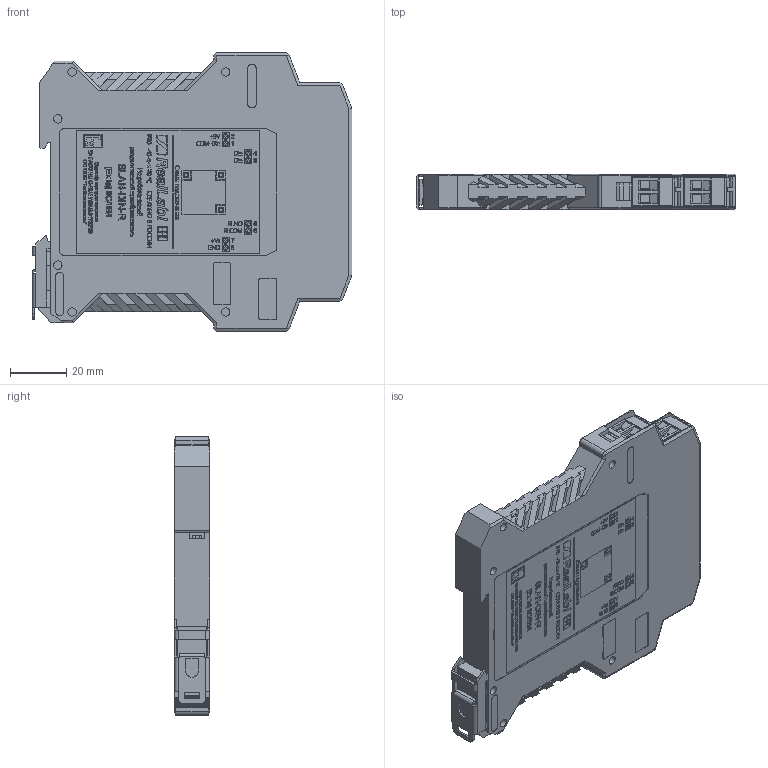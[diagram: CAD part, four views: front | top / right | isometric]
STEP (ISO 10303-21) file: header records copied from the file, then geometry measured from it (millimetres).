
FILE_DESCRIPTION(('STEP AP214'), '1');
FILE_NAME('SLAN-DI-O', '', ('UNSPECIFIED'), ('UNSPECIFIED'), 'C3D Converter', 'C3D Toolkit', '');
FILE_SCHEMA(('AUTOMOTIVE_DESIGN { 1 0 10303 214 3 1 1}'));
Length unit declared in the file: millimetre
Products named in the file (1): НПКГ.426433.009
Bounding box: 113.6 x 12.6 x 99 mm (x, y, z)
Volume: 55937.9 mm3; surface area: 68626.4 mm2
Topology: 1 solids, 35 shells, 7050 faces, 19340 edges, 12807 vertices
Faces by surface type: plane 3845, extrusion 2873, cylinder 312, cone 20
Full cylindrical faces by diameter (mm): 1.4 x8, 1.8 x4, 1.95 x8, 3 x16, 3.783 x8, 4 x8
Entity records: 292327 total; most frequent: CARTESIAN_POINT 67725, ORIENTED_EDGE 38576, DIRECTION 25399, EDGE_CURVE 19288, VECTOR 15595, VERTEX_POINT 12807, LINE 12722, B_SPLINE_CURVE_WITH_KNOTS 8635
